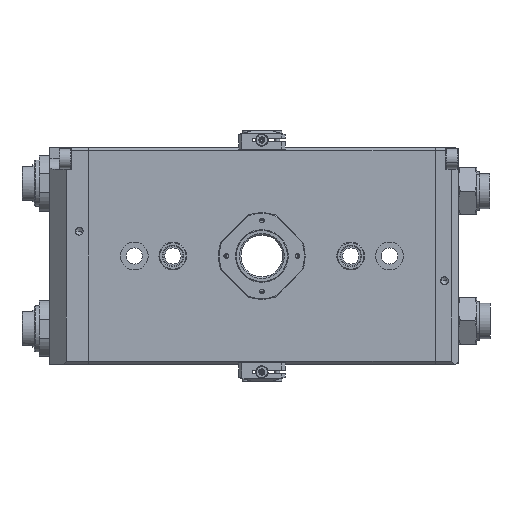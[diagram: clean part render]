
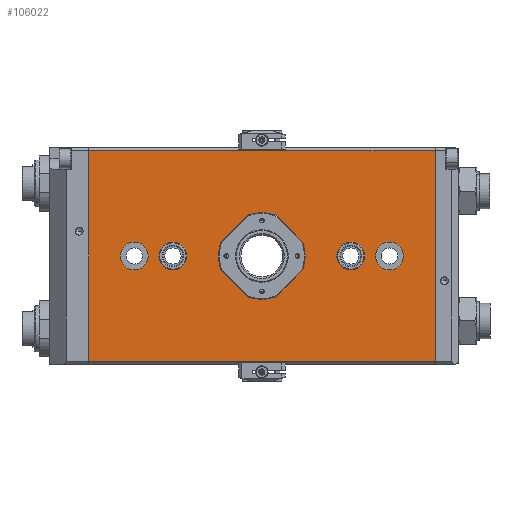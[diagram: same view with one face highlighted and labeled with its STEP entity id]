
A CAD part, front view. The second image highlights one B-rep face of the part: STEP entity #106022.
In plain terms, the highlighted planar face has unit normal (0, -1, 0).
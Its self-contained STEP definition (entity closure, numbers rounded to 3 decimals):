
#750 = EDGE_CURVE ( 'NONE', #94668, #9888, #59434, .T. ) ;
#997 = DIRECTION ( 'NONE',  ( 0., 0., 1. ) ) ;
#3372 = AXIS2_PLACEMENT_3D ( 'NONE', #97308, #39104, #107092 ) ;
#5670 = ORIENTED_EDGE ( 'NONE', *, *, #12780, .F. ) ;
#5782 = AXIS2_PLACEMENT_3D ( 'NONE', #48400, #116372, #58178 ) ;
#7173 = DIRECTION ( 'NONE',  ( 0., 0., 1. ) ) ;
#7786 = CIRCLE ( 'NONE', #124891, 24.5 ) ;
#8386 = DIRECTION ( 'NONE',  ( 0., 0., 1. ) ) ;
#8684 = EDGE_CURVE ( 'NONE', #107274, #100590, #23764, .T. ) ;
#9888 = VERTEX_POINT ( 'NONE', #102390 ) ;
#9942 = EDGE_CURVE ( 'NONE', #103288, #15431, #7786, .T. ) ;
#12403 = CARTESIAN_POINT ( 'NONE',  ( 112., -34., 68. ) ) ;
#12780 = EDGE_CURVE ( 'NONE', #48935, #45817, #59817, .T. ) ;
#13467 = VECTOR ( 'NONE', #48468, 1000. ) ;
#13543 = LINE ( 'NONE', #30749, #36340 ) ;
#14328 = EDGE_LOOP ( 'NONE', ( #67915, #30520 ) ) ;
#15120 = VERTEX_POINT ( 'NONE', #78520 ) ;
#15431 = VERTEX_POINT ( 'NONE', #75072 ) ;
#15494 = VERTEX_POINT ( 'NONE', #66977 ) ;
#15882 = EDGE_CURVE ( 'NONE', #75822, #15494, #88437, .T. ) ;
#23379 = EDGE_CURVE ( 'NONE', #9888, #94668, #107589, .T. ) ;
#23764 = LINE ( 'NONE', #112611, #75593 ) ;
#24720 = AXIS2_PLACEMENT_3D ( 'NONE', #49796, #117755, #59602 ) ;
#30520 = ORIENTED_EDGE ( 'NONE', *, *, #9942, .F. ) ;
#30749 = CARTESIAN_POINT ( 'NONE',  ( 112., -34., -68. ) ) ;
#33977 = EDGE_CURVE ( 'NONE', #104951, #15120, #87526, .T. ) ;
#35406 = CIRCLE ( 'NONE', #81839, 9. ) ;
#36206 = CARTESIAN_POINT ( 'NONE',  ( 57.5, -34., 0. ) ) ;
#36340 = VECTOR ( 'NONE', #108513, 1000. ) ;
#37068 = FACE_OUTER_BOUND ( 'NONE', #115946, .T. ) ;
#37344 = EDGE_LOOP ( 'NONE', ( #118187, #83226 ) ) ;
#39104 = DIRECTION ( 'NONE',  ( 0., -1., 0. ) ) ;
#40132 = FACE_BOUND ( 'NONE', #100038, .T. ) ;
#40718 = DIRECTION ( 'NONE',  ( 0., 0., 1. ) ) ;
#41183 = ORIENTED_EDGE ( 'NONE', *, *, #93337, .F. ) ;
#42411 = DIRECTION ( 'NONE',  ( 0., -1., 0. ) ) ;
#43825 = CARTESIAN_POINT ( 'NONE',  ( -82.5, -34., 0. ) ) ;
#44107 = DIRECTION ( 'NONE',  ( 0., -1., 0. ) ) ;
#45817 = VERTEX_POINT ( 'NONE', #103542 ) ;
#45903 = CARTESIAN_POINT ( 'NONE',  ( 57.5, -34., -9. ) ) ;
#46052 = DIRECTION ( 'NONE',  ( 0., 0., 1. ) ) ;
#46940 = ORIENTED_EDGE ( 'NONE', *, *, #114626, .F. ) ;
#48341 = CARTESIAN_POINT ( 'NONE',  ( 0., -34., -24.5 ) ) ;
#48400 = CARTESIAN_POINT ( 'NONE',  ( -57.5, -34., 0. ) ) ;
#48468 = DIRECTION ( 'NONE',  ( 0., 0., 1. ) ) ;
#48935 = VERTEX_POINT ( 'NONE', #117042 ) ;
#49497 = CARTESIAN_POINT ( 'NONE',  ( 82.5, -34., 9. ) ) ;
#49796 = CARTESIAN_POINT ( 'NONE',  ( -82.5, -34., 0. ) ) ;
#53481 = AXIS2_PLACEMENT_3D ( 'NONE', #43825, #111759, #53600 ) ;
#53600 = DIRECTION ( 'NONE',  ( 0., 0., 1. ) ) ;
#54433 = DIRECTION ( 'NONE',  ( -1., 0., 0. ) ) ;
#55426 = EDGE_CURVE ( 'NONE', #15120, #104951, #35406, .T. ) ;
#55849 = CARTESIAN_POINT ( 'NONE',  ( -112., -34., 68. ) ) ;
#57316 = DIRECTION ( 'NONE',  ( 0., -1., 0. ) ) ;
#58178 = DIRECTION ( 'NONE',  ( 0., 0., 1. ) ) ;
#58262 = PLANE ( 'NONE',  #3372 ) ;
#59269 = DIRECTION ( 'NONE',  ( 0., -1., 0. ) ) ;
#59434 = CIRCLE ( 'NONE', #5782, 9. ) ;
#59602 = DIRECTION ( 'NONE',  ( 0., 0., 1. ) ) ;
#59817 = CIRCLE ( 'NONE', #24720, 9. ) ;
#61026 = CIRCLE ( 'NONE', #72677, 24.5 ) ;
#62940 = FACE_BOUND ( 'NONE', #14328, .T. ) ;
#63262 = EDGE_CURVE ( 'NONE', #110195, #105241, #13543, .T. ) ;
#63700 = AXIS2_PLACEMENT_3D ( 'NONE', #36206, #104200, #46052 ) ;
#64361 = CARTESIAN_POINT ( 'NONE',  ( 112., -34., -68. ) ) ;
#65476 = DIRECTION ( 'NONE',  ( 0., -1., 0. ) ) ;
#66697 = DIRECTION ( 'NONE',  ( 0., -1., 0. ) ) ;
#66977 = CARTESIAN_POINT ( 'NONE',  ( 57.5, -34., 9. ) ) ;
#67915 = ORIENTED_EDGE ( 'NONE', *, *, #93414, .F. ) ;
#68255 = LINE ( 'NONE', #116836, #13467 ) ;
#69610 = ORIENTED_EDGE ( 'NONE', *, *, #15882, .F. ) ;
#70265 = EDGE_CURVE ( 'NONE', #105241, #107274, #68255, .T. ) ;
#72677 = AXIS2_PLACEMENT_3D ( 'NONE', #100598, #42411, #110326 ) ;
#73907 = CARTESIAN_POINT ( 'NONE',  ( -57.5, -34., -9. ) ) ;
#75072 = CARTESIAN_POINT ( 'NONE',  ( 0., -34., 24.5 ) ) ;
#75593 = VECTOR ( 'NONE', #54433, 1000. ) ;
#75822 = VERTEX_POINT ( 'NONE', #45903 ) ;
#78520 = CARTESIAN_POINT ( 'NONE',  ( 82.5, -34., -9. ) ) ;
#79269 = ORIENTED_EDGE ( 'NONE', *, *, #70265, .T. ) ;
#80798 = AXIS2_PLACEMENT_3D ( 'NONE', #102288, #44107, #112049 ) ;
#81839 = AXIS2_PLACEMENT_3D ( 'NONE', #117425, #59269, #997 ) ;
#83226 = ORIENTED_EDGE ( 'NONE', *, *, #750, .F. ) ;
#86901 = EDGE_LOOP ( 'NONE', ( #5670, #108894 ) ) ;
#87009 = CIRCLE ( 'NONE', #80798, 9. ) ;
#87526 = CIRCLE ( 'NONE', #98278, 9. ) ;
#88437 = CIRCLE ( 'NONE', #63700, 9. ) ;
#88773 = FACE_BOUND ( 'NONE', #86901, .T. ) ;
#89165 = CARTESIAN_POINT ( 'NONE',  ( -112., -34., 70. ) ) ;
#91838 = FACE_BOUND ( 'NONE', #92897, .T. ) ;
#92897 = EDGE_LOOP ( 'NONE', ( #107819, #103203 ) ) ;
#92915 = ORIENTED_EDGE ( 'NONE', *, *, #8684, .T. ) ;
#93337 = EDGE_CURVE ( 'NONE', #110195, #100590, #108166, .T. ) ;
#93414 = EDGE_CURVE ( 'NONE', #15431, #103288, #61026, .T. ) ;
#94668 = VERTEX_POINT ( 'NONE', #73907 ) ;
#97308 = CARTESIAN_POINT ( 'NONE',  ( 112., -34., 70. ) ) ;
#98278 = AXIS2_PLACEMENT_3D ( 'NONE', #115535, #57316, #125294 ) ;
#99057 = VECTOR ( 'NONE', #40718, 1000. ) ;
#100038 = EDGE_LOOP ( 'NONE', ( #46940, #69610 ) ) ;
#100421 = ORIENTED_EDGE ( 'NONE', *, *, #63262, .T. ) ;
#100590 = VERTEX_POINT ( 'NONE', #55849 ) ;
#100598 = CARTESIAN_POINT ( 'NONE',  ( 0., -34., 0. ) ) ;
#102288 = CARTESIAN_POINT ( 'NONE',  ( 57.5, -34., 0. ) ) ;
#102390 = CARTESIAN_POINT ( 'NONE',  ( -57.5, -34., 9. ) ) ;
#103203 = ORIENTED_EDGE ( 'NONE', *, *, #55426, .F. ) ;
#103288 = VERTEX_POINT ( 'NONE', #48341 ) ;
#103542 = CARTESIAN_POINT ( 'NONE',  ( -82.5, -34., -9. ) ) ;
#104200 = DIRECTION ( 'NONE',  ( 0., -1., 0. ) ) ;
#104951 = VERTEX_POINT ( 'NONE', #49497 ) ;
#105241 = VERTEX_POINT ( 'NONE', #64361 ) ;
#105756 = CIRCLE ( 'NONE', #53481, 9. ) ;
#106022 = ADVANCED_FACE ( 'NONE', ( #91838, #40132, #114634, #88773, #62940, #37068 ), #58262, .T. ) ;
#107092 = DIRECTION ( 'NONE',  ( 0., 0., 1. ) ) ;
#107274 = VERTEX_POINT ( 'NONE', #12403 ) ;
#107589 = CIRCLE ( 'NONE', #115431, 9. ) ;
#107819 = ORIENTED_EDGE ( 'NONE', *, *, #33977, .F. ) ;
#108166 = LINE ( 'NONE', #89165, #99057 ) ;
#108464 = EDGE_CURVE ( 'NONE', #45817, #48935, #105756, .T. ) ;
#108513 = DIRECTION ( 'NONE',  ( 1., 0., 0. ) ) ;
#108894 = ORIENTED_EDGE ( 'NONE', *, *, #108464, .F. ) ;
#110195 = VERTEX_POINT ( 'NONE', #122823 ) ;
#110326 = DIRECTION ( 'NONE',  ( 0., 0., 1. ) ) ;
#111759 = DIRECTION ( 'NONE',  ( 0., -1., 0. ) ) ;
#112049 = DIRECTION ( 'NONE',  ( 0., 0., 1. ) ) ;
#112611 = CARTESIAN_POINT ( 'NONE',  ( 112., -34., 68. ) ) ;
#114626 = EDGE_CURVE ( 'NONE', #15494, #75822, #87009, .T. ) ;
#114634 = FACE_BOUND ( 'NONE', #37344, .T. ) ;
#115431 = AXIS2_PLACEMENT_3D ( 'NONE', #124861, #66697, #8386 ) ;
#115535 = CARTESIAN_POINT ( 'NONE',  ( 82.5, -34., 0. ) ) ;
#115946 = EDGE_LOOP ( 'NONE', ( #79269, #92915, #41183, #100421 ) ) ;
#116372 = DIRECTION ( 'NONE',  ( 0., -1., 0. ) ) ;
#116836 = CARTESIAN_POINT ( 'NONE',  ( 112., -34., 70. ) ) ;
#117042 = CARTESIAN_POINT ( 'NONE',  ( -82.5, -34., 9. ) ) ;
#117425 = CARTESIAN_POINT ( 'NONE',  ( 82.5, -34., 0. ) ) ;
#117755 = DIRECTION ( 'NONE',  ( 0., -1., 0. ) ) ;
#118187 = ORIENTED_EDGE ( 'NONE', *, *, #23379, .F. ) ;
#122823 = CARTESIAN_POINT ( 'NONE',  ( -112., -34., -68. ) ) ;
#123619 = CARTESIAN_POINT ( 'NONE',  ( 0., -34., 0. ) ) ;
#124861 = CARTESIAN_POINT ( 'NONE',  ( -57.5, -34., 0. ) ) ;
#124891 = AXIS2_PLACEMENT_3D ( 'NONE', #123619, #65476, #7173 ) ;
#125294 = DIRECTION ( 'NONE',  ( 0., 0., 1. ) ) ;
